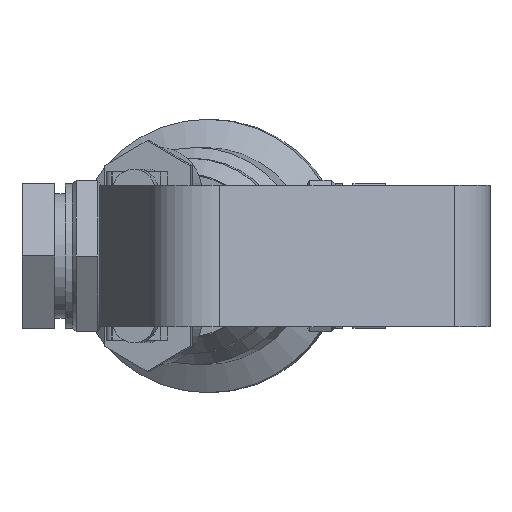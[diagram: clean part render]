
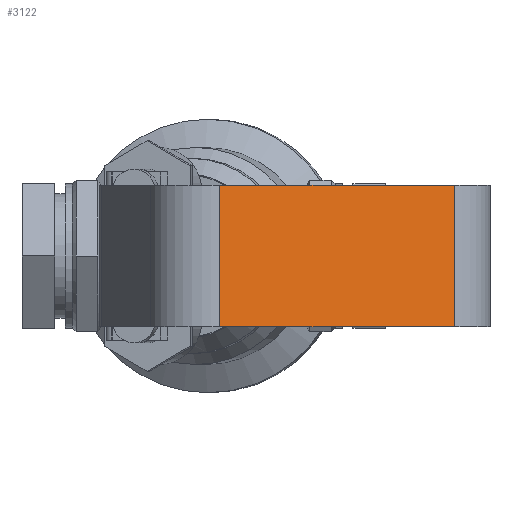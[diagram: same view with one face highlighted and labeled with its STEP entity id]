
A CAD part, front view. The second image highlights one B-rep face of the part: STEP entity #3122.
In plain terms, the highlighted planar face has unit normal (0.342, -0.94, 0).
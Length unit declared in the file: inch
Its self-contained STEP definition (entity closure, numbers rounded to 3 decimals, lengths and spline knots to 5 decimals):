
#110=PLANE('',#3452);
#248=FACE_OUTER_BOUND('',#431,.T.);
#431=EDGE_LOOP('',(#2190,#2191,#2192,#2193));
#621=LINE('',#5144,#868);
#628=LINE('',#5179,#875);
#629=LINE('',#5182,#876);
#630=LINE('',#5183,#877);
#868=VECTOR('',#3916,0.3937);
#875=VECTOR('',#3955,0.3937);
#876=VECTOR('',#3958,0.3937);
#877=VECTOR('',#3959,0.3937);
#1334=VERTEX_POINT('',#5141);
#1335=VERTEX_POINT('',#5143);
#1347=VERTEX_POINT('',#5177);
#1348=VERTEX_POINT('',#5181);
#1657=EDGE_CURVE('',#1334,#1335,#621,.T.);
#1674=EDGE_CURVE('',#1347,#1334,#628,.T.);
#1675=EDGE_CURVE('',#1348,#1347,#629,.T.);
#1676=EDGE_CURVE('',#1348,#1335,#630,.T.);
#2190=ORIENTED_EDGE('',*,*,#1674,.F.);
#2191=ORIENTED_EDGE('',*,*,#1675,.F.);
#2192=ORIENTED_EDGE('',*,*,#1676,.T.);
#2193=ORIENTED_EDGE('',*,*,#1657,.F.);
#3122=ADVANCED_FACE('',(#248),#110,.T.);
#3452=AXIS2_PLACEMENT_3D('',#5180,#3956,#3957);
#3916=DIRECTION('',(-0.94,-0.342,0.));
#3955=DIRECTION('',(0.,0.,-1.));
#3956=DIRECTION('center_axis',(0.342,-0.94,0.));
#3957=DIRECTION('ref_axis',(0.94,0.342,0.));
#3958=DIRECTION('',(0.94,0.342,0.));
#3959=DIRECTION('',(0.,0.,-1.));
#5141=CARTESIAN_POINT('',(2.30981,-4.96272,-0.65));
#5143=CARTESIAN_POINT('',(0.1472,-5.74985,-0.65));
#5144=CARTESIAN_POINT('',(2.30981,-4.96272,-0.65));
#5177=CARTESIAN_POINT('',(2.30981,-4.96272,0.65));
#5179=CARTESIAN_POINT('',(2.30981,-4.96272,0.));
#5180=CARTESIAN_POINT('Origin',(0.1472,-5.74985,0.));
#5181=CARTESIAN_POINT('',(0.1472,-5.74985,0.65));
#5182=CARTESIAN_POINT('',(2.30981,-4.96272,0.65));
#5183=CARTESIAN_POINT('',(0.1472,-5.74985,0.));
